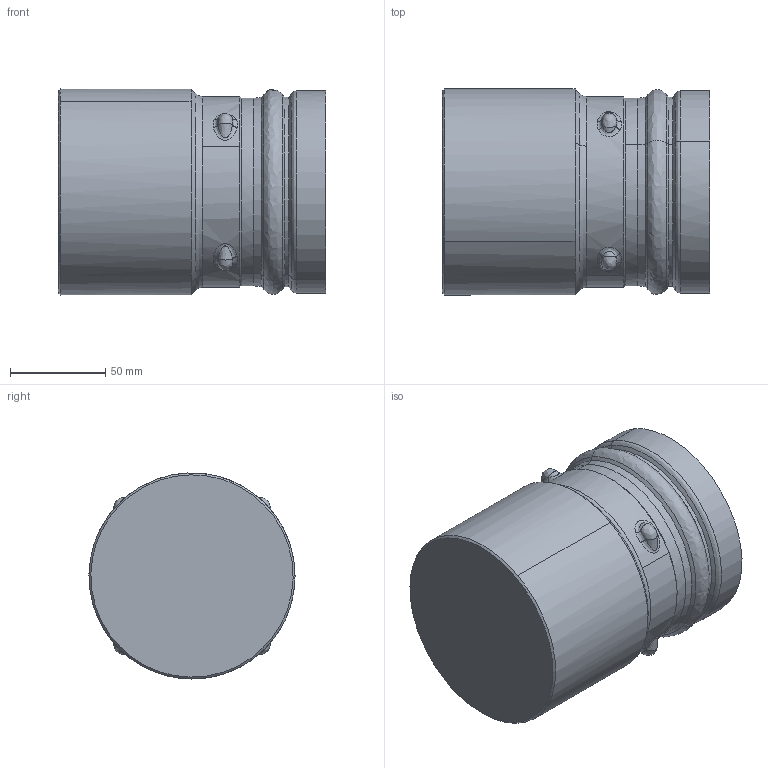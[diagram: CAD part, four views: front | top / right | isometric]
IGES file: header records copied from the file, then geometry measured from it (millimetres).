
Start section: 3D InterOp IGES (Version 25 0 1), Spatial Corp. Copyright (c) 1999-2007.
Global section: file name: pim0002802.igs; native system: Spatial Corp.; preprocessor: 3D InterOp ACIS/IGES; author: CAD-PIM; organization: TransMagic, Inc.; date: 20150318.173215; units: millimetre
Bounding box: 140 x 108 x 107.95 mm (x, y, z)
Volume: 890021.3 mm3; surface area: 81319.5 mm2
Topology: 1 solids, 1 shells, 64 faces, 164 edges, 107 vertices
Faces by surface type: bspline 64
